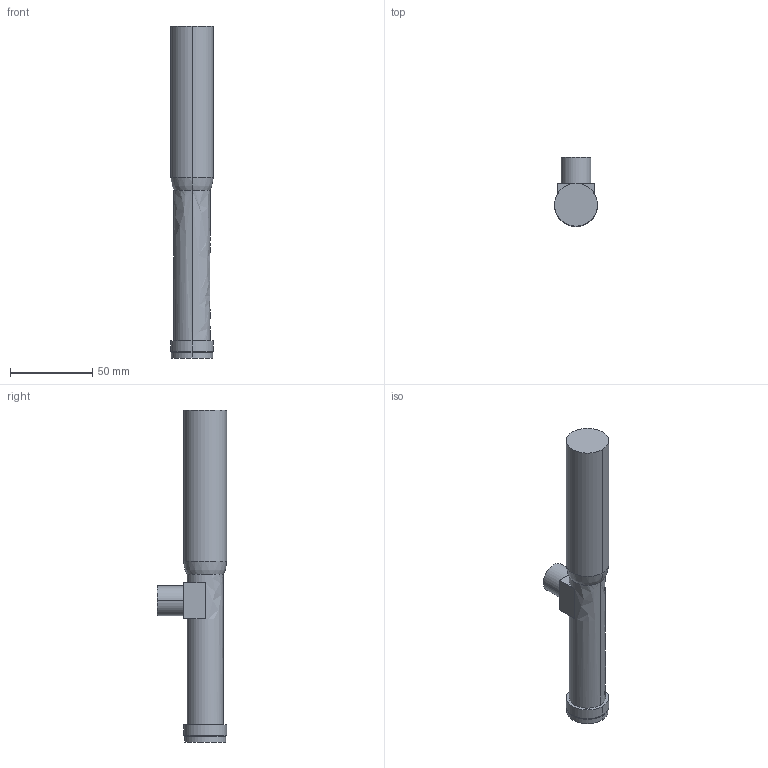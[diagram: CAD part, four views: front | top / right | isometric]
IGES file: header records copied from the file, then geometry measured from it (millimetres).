
Start section:  PTC IGES file: wwh10-330ct.igs
Global section: file name: wwh10-330ct.igs; native system: Pro/ENGINEER by Parametric Technology Corporation; preprocessor: 2009440; author: 56231; organization: Unknown; date: 20170718.154633; units: millimetre
Bounding box: 26 x 42 x 201.6 mm (x, y, z)
Volume: 97530.6 mm3; surface area: 18474.7 mm2
Topology: 1 solids, 1 shells, 31 faces, 65 edges, 42 vertices
Faces by surface type: revolution 18, bspline 13
